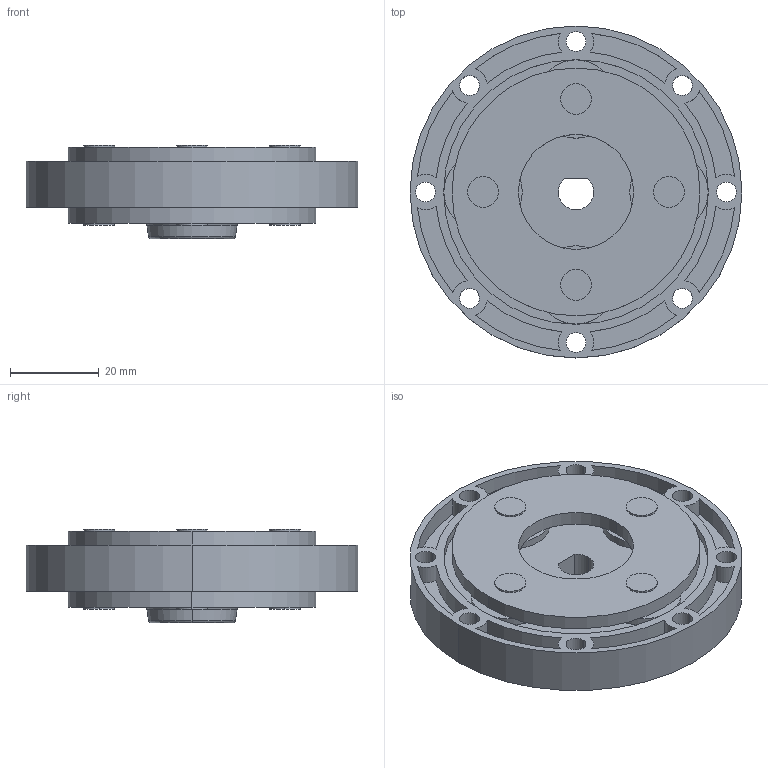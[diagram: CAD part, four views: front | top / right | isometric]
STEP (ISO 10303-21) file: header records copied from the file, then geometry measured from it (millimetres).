
FILE_DESCRIPTION (( 'STEP AP203' ), '1' );
FILE_NAME ('LGU75-3PAD.step', '2021-07-23T02:24:48', ( '' ), ( '' ), 'SwSTEP 2.0', 'SolidWorks 2021', '' );
FILE_SCHEMA (( 'CONFIG_CONTROL_DESIGN' ));
Length unit declared in the file: millimetre
Products named in the file (1): LGU75-3PAD
Bounding box: 75 x 75 x 21.1 mm (x, y, z)
Volume: 46830.1 mm3; surface area: 27343.8 mm2
Topology: 1 solids, 1 shells, 349 faces, 920 edges, 612 vertices
Faces by surface type: cylinder 301, plane 42, torus 4, cone 2
Entity records: 11301 total; most frequent: DIRECTION 2234, CARTESIAN_POINT 1882, ORIENTED_EDGE 1840, AXIS2_PLACEMENT_3D 964, EDGE_CURVE 920, CIRCLE 614, VERTEX_POINT 612, EDGE_LOOP 422
